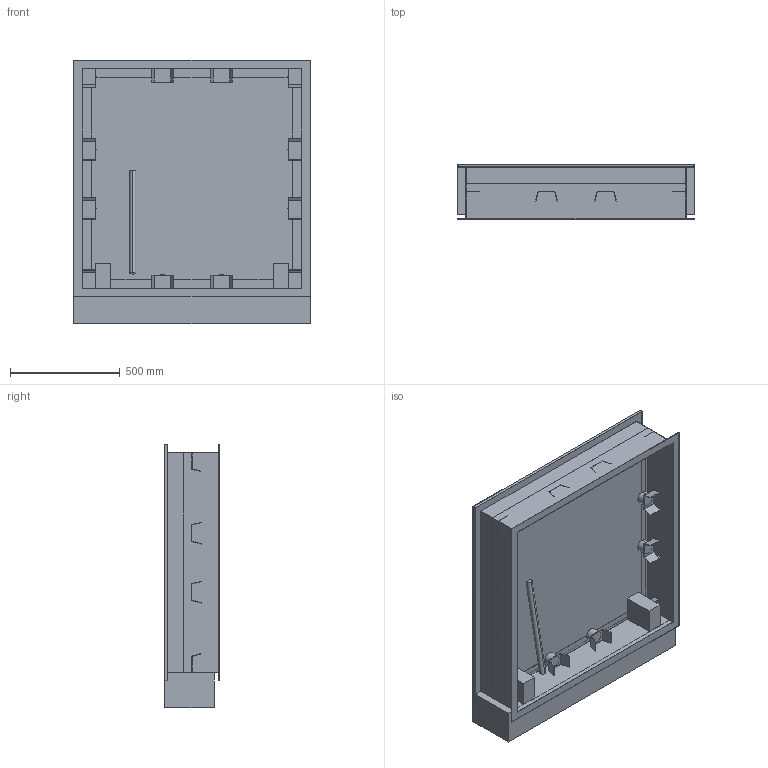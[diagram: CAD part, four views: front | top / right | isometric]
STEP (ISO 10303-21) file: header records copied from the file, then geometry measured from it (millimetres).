
FILE_DESCRIPTION((''),'2;1');
FILE_NAME('51503515','2020-06-19T11:05:56',('slc'),('HUBER SE'),'CREO PARAMETRIC BY PTC INC, 2019224','CREO PARAMETRIC BY PTC INC, 2019224','');
FILE_SCHEMA(('AUTOMOTIVE_DESIGN { 1 0 10303 214 1 1 1 1 }'));
Length unit declared in the file: millimetre
Products named in the file (1): 51503515
Bounding box: 1078 x 250 x 1200 mm (x, y, z)
Volume: 127193183.9 mm3; surface area: 6086849.3 mm2
Topology: 1 solids, 1 shells, 311 faces, 843 edges, 540 vertices
Faces by surface type: plane 223, cylinder 88
Entity records: 10581 total; most frequent: CARTESIAN_POINT 1730, DIRECTION 1693, ORIENTED_EDGE 1686, EDGE_CURVE 843, VECTOR 611, LINE 611, AXIS2_PLACEMENT_3D 541, VERTEX_POINT 540
